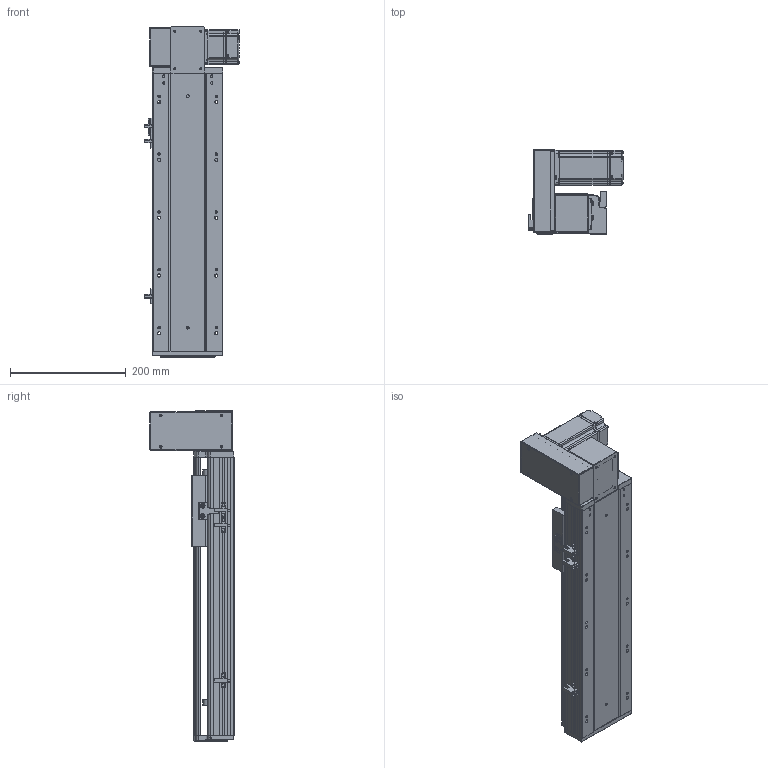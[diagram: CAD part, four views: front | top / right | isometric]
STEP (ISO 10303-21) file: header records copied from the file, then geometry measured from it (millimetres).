
FILE_DESCRIPTION (( 'STEP AP203' ), '1' );
FILE_NAME ('RY120-T-300-UL.SLDASM_250.step', '2021-03-01T05:35:04', ( '盈信电脑' ), ( '东莞市道滘镇水果街19号' ), 'SwSTEP 2.0', 'SolidWorks 2012', '' );
FILE_SCHEMA (( 'CONFIG_CONTROL_DESIGN' ));
Length unit declared in the file: millimetre
Products named in the file (18): RY120-T翋肮祭謫裔啣; RY120-T-300-UL.SLDASM_250; RY120-T蹟翐M4; RY120-T萇儂欶; RY120-T主同步轮轴承压盖; 滅袉蝶18-10; 侂狟400W侜督萇儂; 15; RY120-T萇儂假蚾啣; RY120-T翋肮祭盓傅釱; RY120-T肮祭湍揤踡輸1; RY120-T肮祭湍揤踡輸2; 覜茼ん672; RY120外置感应片(140共用）; RY120-T-300-UL倰第奻裔啣_250; RY120綴裔啣; RY120-T-300-UL倰第菁釱_250; RY120肮祭湍臏賑輸
Assembly tree (23 placements, depth 3):
  RY120-T-300-UL.SLDASM_250
    RY120-T-300-UL倰第菁釱_250
    RY120-T-300-UL倰第奻裔啣_250
    RY120肮祭湍臏賑輸
    RY120綴裔啣
    覜茼ん672  x3
    RY120外置感应片(140共用）
    RY120-T肮祭湍揤踡輸1
    RY120-T肮祭湍揤踡輸2
    RY120-T翋肮祭盓傅釱
    RY120-T萇儂假蚾啣
    侂狟400W侜督萇儂
      15
    RY120-T主同步轮轴承压盖
    滅袉蝶18-10  x2
    RY120-T萇儂欶
    RY120-T蹟翐M4  x4
    RY120-T翋肮祭謫裔啣
Bounding box: 164.2 x 146 x 571 mm (x, y, z)
Volume: 1973902.2 mm3; surface area: 700092.8 mm2
Topology: 23 solids, 23 shells, 2636 faces, 7168 edges, 4622 vertices
Faces by surface type: plane 1396, cylinder 954, cone 197, bspline 89
Entity records: 83334 total; most frequent: CARTESIAN_POINT 20734, ORIENTED_EDGE 12856, DIRECTION 12186, EDGE_CURVE 6428, VERTEX_POINT 4209, LINE 4120, VECTOR 4120, AXIS2_PLACEMENT_3D 4033
